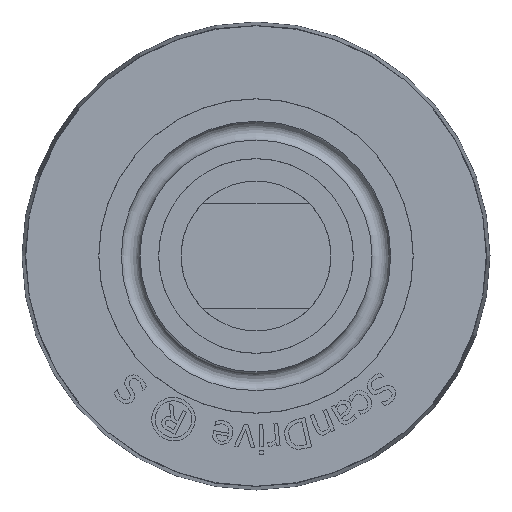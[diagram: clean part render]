
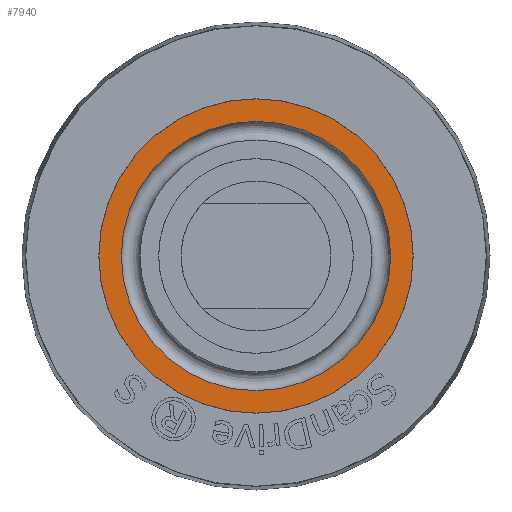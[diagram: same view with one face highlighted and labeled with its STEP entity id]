
A CAD part, left-side view. The second image highlights one B-rep face of the part: STEP entity #7940.
In plain terms, the highlighted planar face has unit normal (-1, 0, 0).
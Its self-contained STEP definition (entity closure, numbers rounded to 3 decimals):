
#60=CIRCLE('',#8324,17.99);
#61=CIRCLE('',#8326,20.99);
#151=FACE_BOUND('',#1490,.T.);
#1002=FACE_OUTER_BOUND('',#1489,.T.);
#1489=EDGE_LOOP('',(#6306));
#1490=EDGE_LOOP('',(#6307));
#3608=VERTEX_POINT('',#12298);
#3609=VERTEX_POINT('',#12301);
#4583=EDGE_CURVE('',#3608,#3608,#60,.T.);
#4584=EDGE_CURVE('',#3609,#3609,#61,.T.);
#6306=ORIENTED_EDGE('',*,*,#4584,.T.);
#6307=ORIENTED_EDGE('',*,*,#4583,.F.);
#7598=PLANE('',#8325);
#7940=ADVANCED_FACE('',(#1002,#151),#7598,.T.);
#8324=AXIS2_PLACEMENT_3D('',#12299,#9143,#9144);
#8325=AXIS2_PLACEMENT_3D('',#12300,#9145,#9146);
#8326=AXIS2_PLACEMENT_3D('',#12302,#9147,#9148);
#9143=DIRECTION('center_axis',(-1.,0.,0.));
#9144=DIRECTION('ref_axis',(0.,0.,1.));
#9145=DIRECTION('center_axis',(-1.,0.,0.));
#9146=DIRECTION('ref_axis',(0.,0.,1.));
#9147=DIRECTION('center_axis',(-1.,0.,0.));
#9148=DIRECTION('ref_axis',(0.,0.,1.));
#12298=CARTESIAN_POINT('',(-275.,0.,17.99));
#12299=CARTESIAN_POINT('Origin',(-275.,0.,0.));
#12300=CARTESIAN_POINT('Origin',(-275.,0.,17.99));
#12301=CARTESIAN_POINT('',(-275.,0.,20.99));
#12302=CARTESIAN_POINT('Origin',(-275.,0.,0.));
